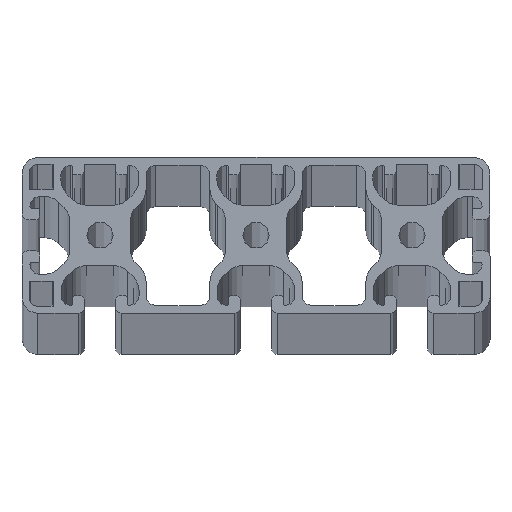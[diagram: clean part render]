
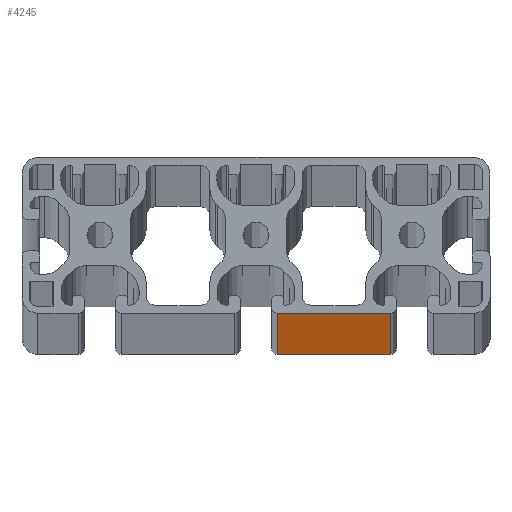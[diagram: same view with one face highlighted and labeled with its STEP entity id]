
A CAD part, top view. The second image highlights one B-rep face of the part: STEP entity #4245.
In plain terms, the highlighted planar face has unit normal (0, -1, 0).
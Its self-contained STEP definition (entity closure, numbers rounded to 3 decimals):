
#10 = LINE ( 'NONE', #8282, #3137 ) ;
#166 = VECTOR ( 'NONE', #3873, 1000. ) ;
#182 = VERTEX_POINT ( 'NONE', #6522 ) ;
#441 = CARTESIAN_POINT ( 'NONE',  ( 34.5, -20., -6060. ) ) ;
#564 = ORIENTED_EDGE ( 'NONE', *, *, #2106, .F. ) ;
#619 = CARTESIAN_POINT ( 'NONE',  ( 5.5, -20., 0. ) ) ;
#1655 = EDGE_CURVE ( 'NONE', #6242, #5520, #10, .T. ) ;
#1759 = CARTESIAN_POINT ( 'NONE',  ( 5.5, -20., -6060. ) ) ;
#1934 = AXIS2_PLACEMENT_3D ( 'NONE', #8765, #6452, #9709 ) ;
#2106 = EDGE_CURVE ( 'NONE', #6242, #4285, #4051, .T. ) ;
#2457 = DIRECTION ( 'NONE',  ( 0., 0., 1. ) ) ;
#2841 = ORIENTED_EDGE ( 'NONE', *, *, #8859, .F. ) ;
#3100 = FACE_OUTER_BOUND ( 'NONE', #7065, .T. ) ;
#3137 = VECTOR ( 'NONE', #9032, 1000. ) ;
#3615 = CARTESIAN_POINT ( 'NONE',  ( 5.5, -20., -6060. ) ) ;
#3873 = DIRECTION ( 'NONE',  ( 1., 0., 0. ) ) ;
#4051 = LINE ( 'NONE', #1759, #5112 ) ;
#4245 = ADVANCED_FACE ( 'NONE', ( #3100 ), #5550, .T. ) ;
#4285 = VERTEX_POINT ( 'NONE', #10357 ) ;
#4605 = ORIENTED_EDGE ( 'NONE', *, *, #7115, .T. ) ;
#4713 = CARTESIAN_POINT ( 'NONE',  ( 34.5, -20., -6060. ) ) ;
#5112 = VECTOR ( 'NONE', #2457, 1000. ) ;
#5520 = VERTEX_POINT ( 'NONE', #4713 ) ;
#5550 = PLANE ( 'NONE',  #1934 ) ;
#5979 = DIRECTION ( 'NONE',  ( 0., 0., 1. ) ) ;
#6242 = VERTEX_POINT ( 'NONE', #3615 ) ;
#6452 = DIRECTION ( 'NONE',  ( 0., -1., 0. ) ) ;
#6522 = CARTESIAN_POINT ( 'NONE',  ( 34.5, -20., 0. ) ) ;
#6964 = LINE ( 'NONE', #619, #166 ) ;
#7065 = EDGE_LOOP ( 'NONE', ( #2841, #564, #7276, #4605 ) ) ;
#7115 = EDGE_CURVE ( 'NONE', #5520, #182, #7593, .T. ) ;
#7276 = ORIENTED_EDGE ( 'NONE', *, *, #1655, .T. ) ;
#7593 = LINE ( 'NONE', #441, #10164 ) ;
#8282 = CARTESIAN_POINT ( 'NONE',  ( 5.5, -20., -6060. ) ) ;
#8765 = CARTESIAN_POINT ( 'NONE',  ( 5.5, -20., -6060. ) ) ;
#8859 = EDGE_CURVE ( 'NONE', #4285, #182, #6964, .T. ) ;
#9032 = DIRECTION ( 'NONE',  ( 1., 0., 0. ) ) ;
#9709 = DIRECTION ( 'NONE',  ( 0., 0., -1. ) ) ;
#10164 = VECTOR ( 'NONE', #5979, 1000. ) ;
#10357 = CARTESIAN_POINT ( 'NONE',  ( 5.5, -20., 0. ) ) ;
